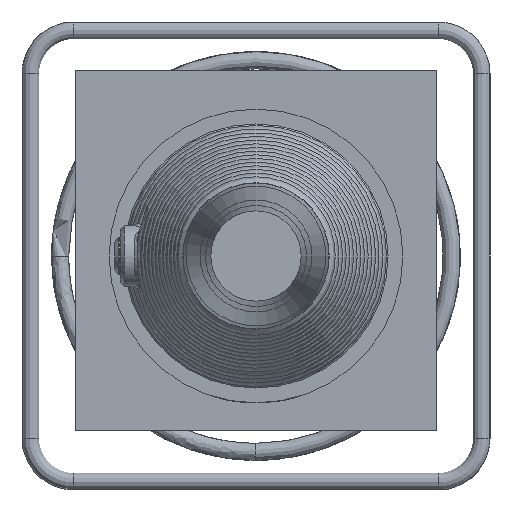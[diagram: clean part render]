
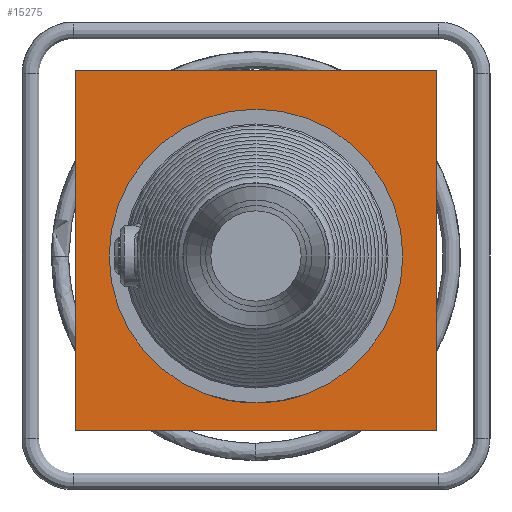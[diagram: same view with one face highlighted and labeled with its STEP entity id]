
A CAD part, left-side view. The second image highlights one B-rep face of the part: STEP entity #15275.
In plain terms, the highlighted planar face has unit normal (-1, 0, 0).
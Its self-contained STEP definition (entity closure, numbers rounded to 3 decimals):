
#1465=PLANE('',#16222);
#2446=LINE('',#35962,#3359);
#2450=LINE('',#35969,#3363);
#2453=LINE('',#35974,#3366);
#2456=LINE('',#35978,#3369);
#3359=VECTOR('',#18954,335.);
#3363=VECTOR('',#18960,335.);
#3366=VECTOR('',#18965,335.);
#3369=VECTOR('',#18970,335.);
#3642=FACE_BOUND('',#5556,.T.);
#4506=FACE_OUTER_BOUND('',#5555,.T.);
#5555=EDGE_LOOP('',(#13818,#13819,#13820,#13821));
#5556=EDGE_LOOP('',(#13822));
#6031=CIRCLE('',#16163,136.5);
#7487=VERTEX_POINT('',#32252);
#7513=VERTEX_POINT('',#35960);
#7514=VERTEX_POINT('',#35961);
#7516=VERTEX_POINT('',#35968);
#7517=VERTEX_POINT('',#35973);
#9608=EDGE_CURVE('',#7487,#7487,#6031,.T.);
#9636=EDGE_CURVE('',#7513,#7514,#2446,.T.);
#9640=EDGE_CURVE('',#7514,#7516,#2450,.T.);
#9643=EDGE_CURVE('',#7516,#7517,#2453,.T.);
#9646=EDGE_CURVE('',#7517,#7513,#2456,.T.);
#13818=ORIENTED_EDGE('',*,*,#9646,.T.);
#13819=ORIENTED_EDGE('',*,*,#9636,.T.);
#13820=ORIENTED_EDGE('',*,*,#9640,.T.);
#13821=ORIENTED_EDGE('',*,*,#9643,.T.);
#13822=ORIENTED_EDGE('',*,*,#9608,.T.);
#15275=ADVANCED_FACE('',(#4506,#3642),#1465,.T.);
#16163=AXIS2_PLACEMENT_3D('',#32253,#18836,#18837);
#16222=AXIS2_PLACEMENT_3D('',#35980,#18972,#18973);
#18836=DIRECTION('center_axis',(1.,0.,0.));
#18837=DIRECTION('ref_axis',(0.,1.,0.));
#18954=DIRECTION('',(0.,0.,-1.));
#18960=DIRECTION('',(0.,-1.,0.));
#18965=DIRECTION('',(0.,0.,1.));
#18970=DIRECTION('',(0.,1.,0.));
#18972=DIRECTION('center_axis',(-1.,0.,0.));
#18973=DIRECTION('ref_axis',(0.,0.,-1.));
#32252=CARTESIAN_POINT('',(-112.151,136.5,0.));
#32253=CARTESIAN_POINT('Origin',(-112.151,0.,
0.));
#35960=CARTESIAN_POINT('',(-112.151,167.5,172.753));
#35961=CARTESIAN_POINT('',(-112.151,167.5,-162.247));
#35962=CARTESIAN_POINT('',(-112.151,167.5,172.753));
#35968=CARTESIAN_POINT('',(-112.151,-167.5,-162.247));
#35969=CARTESIAN_POINT('',(-112.151,167.5,-162.247));
#35973=CARTESIAN_POINT('',(-112.151,-167.5,172.753));
#35974=CARTESIAN_POINT('',(-112.151,-167.5,-162.247));
#35978=CARTESIAN_POINT('',(-112.151,-167.5,172.753));
#35980=CARTESIAN_POINT('Origin',(-112.151,0.,
5.253));
